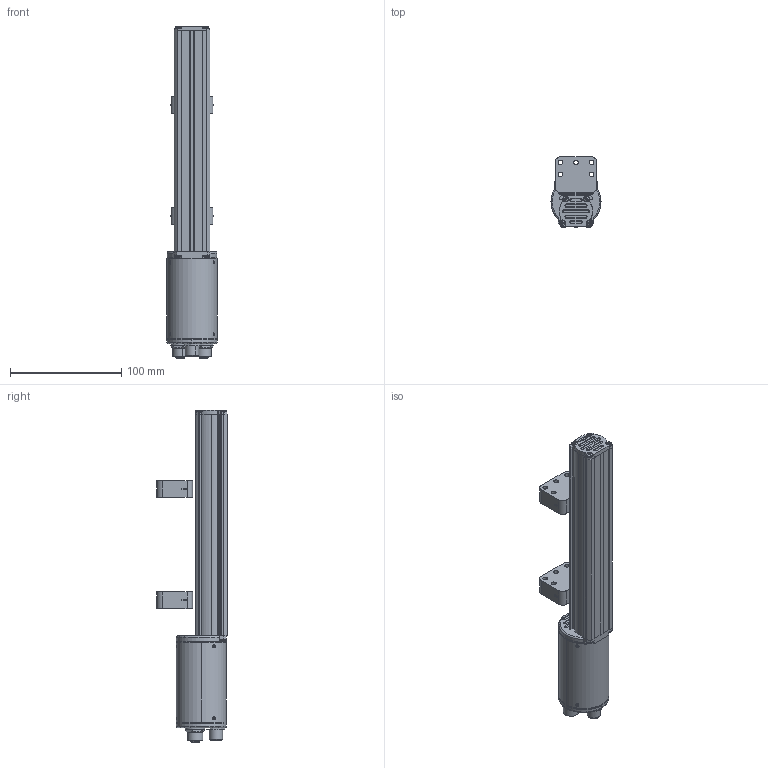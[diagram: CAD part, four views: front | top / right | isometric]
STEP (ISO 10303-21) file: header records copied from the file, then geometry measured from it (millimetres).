
FILE_DESCRIPTION (( 'STEP AP203' ), '1' );
FILE_NAME ('WPA-E-T-0100.STEP', '2023-11-28T13:21:47', ( '' ), ( '' ), 'SwSTEP 2.0', 'SolidWorks 2023', '' );
FILE_SCHEMA (( 'CONFIG_CONTROL_DESIGN' ));
Length unit declared in the file: millimetre
Products named in the file (9): WPA-E-T-0100; MIM230X_MIM297; TES679x_Rev 1; MIM679X_VITE M2,5X10 TORX TRILOBATA DIN7500C; PTES292X; CUS1237X_Rev 2; TES174X_ZAMA; PCUR202x; CUS1229X
Assembly tree (19 placements, depth 2):
  WPA-E-T-0100
    CUS1237X_Rev 2
    TES174X_ZAMA
    TES679x_Rev 1
    MIM679X_VITE M2,5X10 TORX TRILOBATA DIN7500C  x6
    CUS1229X
    MIM230X_MIM297  x6
    PCUR202x  x2
    PTES292X
Bounding box: 45 x 62.95 x 298.55 mm (x, y, z)
Volume: 300718.4 mm3; surface area: 78679.1 mm2
Topology: 18 solids, 38 shells, 2045 faces, 5552 edges, 3563 vertices
Faces by surface type: cone 746, cylinder 585, plane 559, bspline 91, torus 52, sphere 12
Entity records: 37247 total; most frequent: CARTESIAN_POINT 12274, ORIENTED_EDGE 5077, DIRECTION 4456, EDGE_CURVE 2738, VERTEX_POINT 1827, AXIS2_PLACEMENT_3D 1676, VECTOR 1104, LINE 1104
